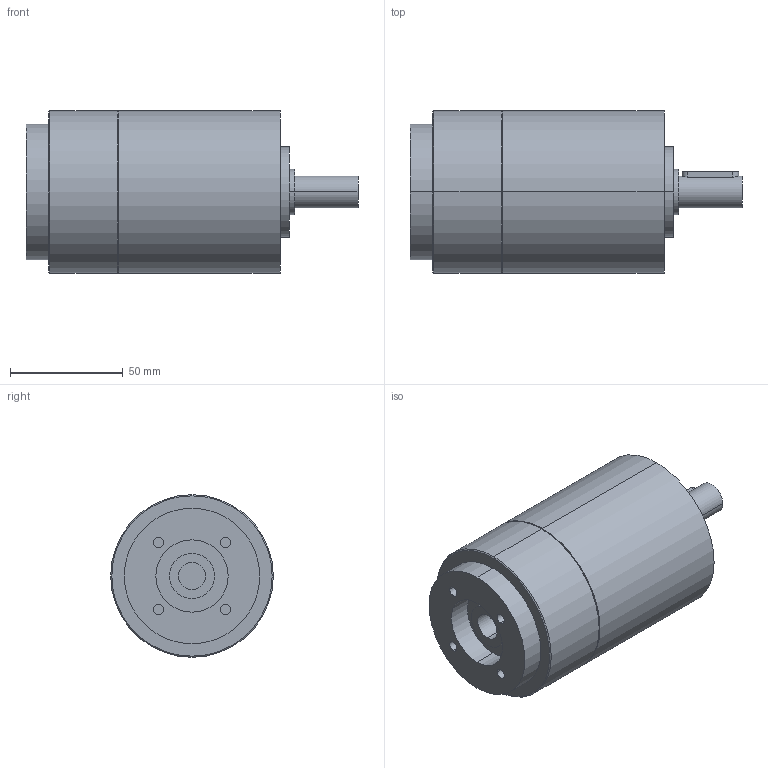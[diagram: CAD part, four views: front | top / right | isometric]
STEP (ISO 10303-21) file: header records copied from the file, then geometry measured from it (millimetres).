
FILE_DESCRIPTION(('CoCreate Modeling STEP Export'),'2;1');
FILE_NAME('GPT75_ig-9-12-16-20-25-28-35-40-50-70-100_14_B14T_12_P11.stp','2014-08-27T13:16:15',(''),(''),'CoCreate Modeling STEP processor for AP214 (Solid Model)','CoCreate Modeling 16.00C 25-Feb-2009 (C) Parametric Technology GmbH','');
FILE_SCHEMA(('AUTOMOTIVE_DESIGN { 1 0 10303 214 1 1 1 1 }'));
Length unit declared in the file: millimetre
Products named in the file (2): GPT75_ig-9-12-16-20-25-28-35-40-50-70-100_14_B14T_12_P11
Assembly tree (1 placements, depth 2):
  GPT75_ig-9-12-16-20-25-28-35-40-50-70-100_14_B14T_12_P11
    GPT75_ig-9-12-16-20-25-28-35-40-50-70-100_14_B14T_12_P11
Bounding box: 147 x 72 x 72 mm (x, y, z)
Volume: 443706.9 mm3; surface area: 39140.4 mm2
Topology: 1 solids, 1 shells, 64 faces, 142 edges, 97 vertices
Faces by surface type: cylinder 38, plane 22, cone 4
Entity records: 1878 total; most frequent: CARTESIAN_POINT 614, ORIENTED_EDGE 284, DIRECTION 210, EDGE_CURVE 142, VERTEX_POINT 97, AXIS2_PLACEMENT_3D 81, EDGE_LOOP 81, FACE_OUTER_BOUND 64
